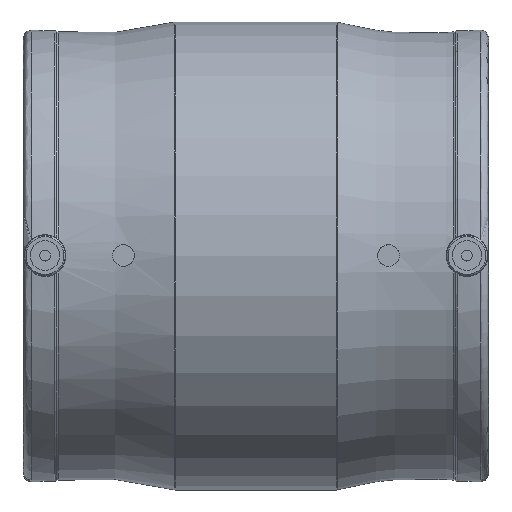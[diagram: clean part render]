
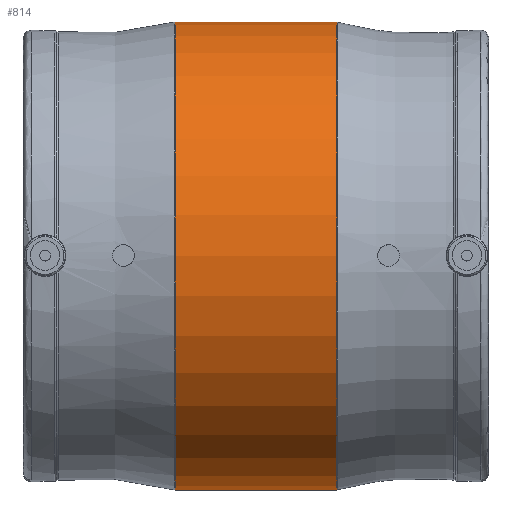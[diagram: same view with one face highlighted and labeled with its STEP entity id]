
A CAD part, top view. The second image highlights one B-rep face of the part: STEP entity #814.
In plain terms, the highlighted cylindrical face has radius 86.5 mm (diameter 173 mm), a full revolution.
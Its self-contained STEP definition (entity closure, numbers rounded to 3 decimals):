
#61=CYLINDRICAL_SURFACE('',#912,86.5);
#98=CIRCLE('',#913,86.5);
#99=CIRCLE('',#914,86.5);
#242=ORIENTED_EDGE('',*,*,#406,.T.);
#243=ORIENTED_EDGE('',*,*,#407,.T.);
#406=EDGE_CURVE('',#492,#492,#98,.F.);
#407=EDGE_CURVE('',#493,#493,#99,.T.);
#492=VERTEX_POINT('',#1476);
#493=VERTEX_POINT('',#1478);
#627=EDGE_LOOP('',(#242));
#628=EDGE_LOOP('',(#243));
#713=FACE_BOUND('',#627,.T.);
#714=FACE_BOUND('',#628,.T.);
#814=ADVANCED_FACE('',(#713,#714),#61,.T.);
#912=AXIS2_PLACEMENT_3D('',#1474,#1102,#1103);
#913=AXIS2_PLACEMENT_3D('',#1475,#1104,#1105);
#914=AXIS2_PLACEMENT_3D('',#1477,#1106,#1107);
#1102=DIRECTION('',(-1.,0.,0.));
#1103=DIRECTION('',(0.,0.,1.));
#1104=DIRECTION('',(1.,0.,0.));
#1105=DIRECTION('',(0.,0.,-1.));
#1106=DIRECTION('',(1.,0.,0.));
#1107=DIRECTION('',(0.,0.,-1.));
#1474=CARTESIAN_POINT('',(-60.,0.,0.));
#1475=CARTESIAN_POINT('',(29.867,0.,0.));
#1476=CARTESIAN_POINT('',(29.867,0.,-86.5));
#1477=CARTESIAN_POINT('',(-29.867,0.,0.));
#1478=CARTESIAN_POINT('',(-29.867,0.,-86.5));
